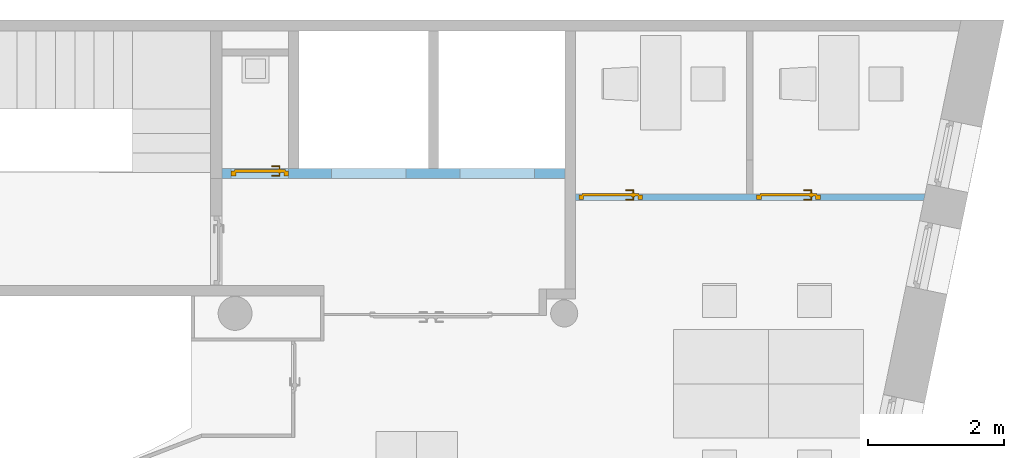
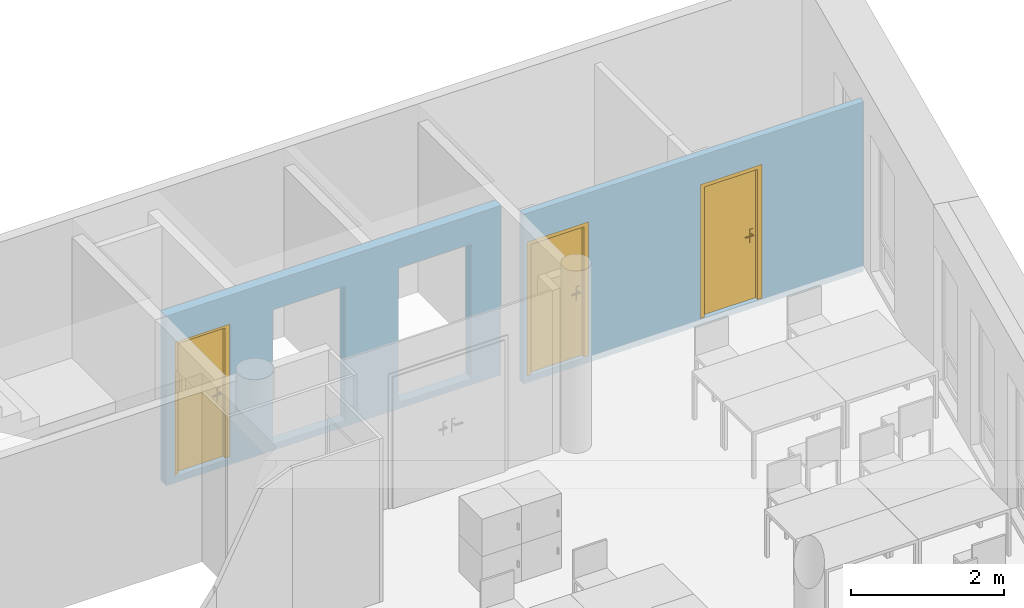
"""IFC4 building model written with IfcOpenShell, lengths in metres."""

import ifcopenshell
import ifcopenshell.guid

model = None  # the IFC model being written
_history = None  # IfcOwnerHistory: only IFC2X3 demands one
_inside = {}  # id of a spatial element -> (the spatial element, [elements in it])
_under = {}  # id of a project, library or spatial element -> (it, [spatial elements below it])
_declared = {}  # id of a project -> (the project, [libraries it declares])
_typed = {}  # id of a type object -> (the type object, [elements of that type])
_made_of = {}  # id of a material, layer set ... -> (it, [elements and type objects made of it])


def new_model(schema):
    """Start an empty IFC model of exactly this schema.

    Asked for "IFC4X3", IfcOpenShell would pick the latest addendum, in which some entities
    have other attributes; the version numbers below select the first issue.
    IFC2X3 requires an IfcOwnerHistory on every rooted entity: one is made here for all.
    """
    global model, _history
    if schema == "IFC4X3":
        model = ifcopenshell.file(schema_version=(4, 3, 0, 0))
    else:
        model = ifcopenshell.file(schema=schema)
    _inside.clear()
    _under.clear()
    _declared.clear()
    _typed.clear()
    _made_of.clear()
    _history = None
    if model.schema == "IFC2X3":
        org = make("IfcOrganization", Name="unknown")
        user = make(
            "IfcPersonAndOrganization",
            ThePerson=make("IfcPerson", FamilyName="unknown"),
            TheOrganization=org,
        )
        app = make(
            "IfcApplication",
            ApplicationDeveloper=org,
            Version="unknown",
            ApplicationFullName="unknown",
            ApplicationIdentifier="unknown",
        )
        _history = make(
            "IfcOwnerHistory",
            OwningUser=user,
            OwningApplication=app,
            ChangeAction="ADDED",
            CreationDate=0,
        )
    return model


def make(cls, **values):
    """One entity of the class cls with the attributes given. An attribute that is None is left unset."""
    return model.create_entity(
        cls, **{name: value for name, value in values.items() if value is not None}
    )


def entity(cls, *values):
    """Any entity or typed value of the class cls, its attributes in the order of the schema. None: left unset."""
    e = model.create_entity(cls)
    for i, value in enumerate(values):
        if value is not None:
            e[i] = value
    return e


def rooted(cls, **values):
    """An entity with a GlobalId (a new one), such as an element, a storey or a relation."""
    return make(cls, GlobalId=ifcopenshell.guid.new(), OwnerHistory=_history, **values)


def si_unit(unit_type, name, prefix=None):
    """IfcSIUnit, for example si_unit("LENGTHUNIT", "METRE", prefix="MILLI")."""
    return make("IfcSIUnit", UnitType=unit_type, Prefix=prefix, Name=name)


def converted_unit(unit_type, name, factor, base, dimensions=None, offset=None):
    """IfcConversionBasedUnit, such as the inch: factor (a typed value) times the base unit."""
    return make(
        "IfcConversionBasedUnit"
        if offset is None
        else "IfcConversionBasedUnitWithOffset",
        ConversionOffset=offset,
        Dimensions=None
        if dimensions is None
        else entity("IfcDimensionalExponents", *dimensions),
        UnitType=unit_type,
        Name=name,
        ConversionFactor=make(
            "IfcMeasureWithUnit", ValueComponent=factor, UnitComponent=base
        ),
    )


def derived_unit(unit_type, elements):
    """IfcDerivedUnit: a product of units, each with its exponent."""
    return make(
        "IfcDerivedUnit",
        Elements=[
            make("IfcDerivedUnitElement", Unit=unit, Exponent=power)
            for unit, power in elements
        ],
        UnitType=unit_type,
    )


def assignment(units):
    """IfcUnitAssignment: the units of a project."""
    return None if units is None else make("IfcUnitAssignment", Units=units)


def point(xyz):
    """IfcCartesianPoint."""
    return None if xyz is None else make("IfcCartesianPoint", Coordinates=xyz)


def direction(xyz):
    """IfcDirection."""
    return None if xyz is None else make("IfcDirection", DirectionRatios=xyz)


def frame(location, z_axis=None, x_axis=None):
    """IfcAxis2Placement3D, a coordinate frame: its origin and axes. An axis left out is left unset."""
    return make(
        "IfcAxis2Placement3D",
        Location=point(location),
        Axis=direction(z_axis),
        RefDirection=direction(x_axis),
    )


def origin():
    """The frame at (0, 0, 0) with its axes left unset."""
    return frame((0.0, 0.0, 0.0))


def origin_with_axes():
    """The frame at (0, 0, 0) with the z axis (0, 0, 1) and the x axis (1, 0, 0) written out."""
    return frame((0.0, 0.0, 0.0), z_axis=(0.0, 0.0, 1.0), x_axis=(1.0, 0.0, 0.0))


def place(relative_to, where):
    """IfcLocalPlacement: puts the frame where relative to a parent placement (None: the world)."""
    return make(
        "IfcLocalPlacement", PlacementRelTo=relative_to, RelativePlacement=where
    )


def context(
    kind, dimensions, precision=None, world=None, true_north=None, identifier=None
):
    """IfcGeometricRepresentationContext, for example the 3D "Model" context."""
    return make(
        "IfcGeometricRepresentationContext",
        ContextIdentifier=identifier,
        ContextType=kind,
        CoordinateSpaceDimension=dimensions,
        Precision=precision,
        WorldCoordinateSystem=world,
        TrueNorth=true_north,
    )


def subcontext(parent, identifier, kind, view, scale=None):
    """IfcGeometricRepresentationSubContext, for example "Body" below "Model"."""
    return make(
        "IfcGeometricRepresentationSubContext",
        ContextIdentifier=identifier,
        ContextType=kind,
        ParentContext=parent,
        TargetScale=scale,
        TargetView=view,
    )


def project(units=None, contexts=None):
    """IfcProject with its units and contexts."""
    return rooted(
        "IfcProject",
        Name="project",
        RepresentationContexts=contexts,
        UnitsInContext=assignment(units),
    )


def spatial(cls, under=None, at=None, **own):
    """A site, building, storey or space (cls), placed at a placement, below another one or the project."""
    s = rooted(cls, ObjectPlacement=at, **own)
    if under is not None:
        _under.setdefault(under.id(), (under, []))[1].append(s)
    return s


def polyline(points):
    """IfcPolyline through the points."""
    return make("IfcPolyline", Points=[point(p) for p in points])


def outline(outer, holes=None, kind="AREA"):
    """IfcArbitraryClosedProfileDef: a profile drawn as a closed curve; with holes, ...WithVoids."""
    if holes is None:
        return make("IfcArbitraryClosedProfileDef", ProfileType=kind, OuterCurve=outer)
    return make(
        "IfcArbitraryProfileDefWithVoids",
        ProfileType=kind,
        OuterCurve=outer,
        InnerCurves=holes,
    )


def extrude(swept, where, along, depth):
    """IfcExtrudedAreaSolid: the profile swept, set in the frame where, extruded along a direction by depth."""
    return make(
        "IfcExtrudedAreaSolid",
        SweptArea=swept,
        Position=where,
        ExtrudedDirection=direction(along),
        Depth=depth,
    )


def faces_of(points, faces, orient=None, outer=None):
    """IfcFace entities. A face is a list of loops; a loop is a list of indices into points, from 0.

    orient and outer hold one flag for each loop. By default every Orientation is true, the
    first loop of a face is its IfcFaceOuterBound and the others are IfcFaceBound.
    """
    made = []
    for i, loops in enumerate(faces):
        bounds = []
        for j, loop in enumerate(loops):
            is_outer = j == 0 if outer is None else outer[i][j]
            bounds.append(
                make(
                    "IfcFaceOuterBound" if is_outer else "IfcFaceBound",
                    Bound=make("IfcPolyLoop", Polygon=[points[k] for k in loop]),
                    Orientation=True if orient is None else orient[i][j],
                )
            )
        made.append(make("IfcFace", Bounds=bounds))
    return made


def faceted_brep(points, faces, orient=None, outer=None, voids=None):
    """IfcFacetedBrep: a solid bounded by flat faces; with voids (closed shells), ...WithVoids."""
    shared = [point(p) for p in points]
    hull = make("IfcClosedShell", CfsFaces=faces_of(shared, faces, orient, outer))
    if voids is None:
        return make("IfcFacetedBrep", Outer=hull)
    return make(
        "IfcFacetedBrepWithVoids",
        Outer=hull,
        Voids=[
            make(cls, CfsFaces=faces_of(shared, fs, o, b)) for cls, fs, o, b in voids
        ],
    )


def shape(context_of_items, identifier, shape_type, items):
    """IfcShapeRepresentation: the items that make up one representation, for example the "Body"."""
    return make(
        "IfcShapeRepresentation",
        ContextOfItems=context_of_items,
        RepresentationIdentifier=identifier,
        RepresentationType=shape_type,
        Items=items,
    )


def source(mapping_origin, context_of_items, identifier, shape_type, items):
    """IfcRepresentationMap: a shape defined once, which mapped items show again and again."""
    return make(
        "IfcRepresentationMap",
        MappingOrigin=mapping_origin,
        MappedRepresentation=shape(context_of_items, identifier, shape_type, items),
    )


def transform(
    local_origin,
    x_axis=None,
    y_axis=None,
    z_axis=None,
    scale=None,
    scale2=None,
    scale3=None,
    uniform=True,
):
    """IfcCartesianTransformationOperator3D, or its non-uniform kind. x_axis, y_axis, z_axis: its Axis1, 2, 3."""
    if uniform:
        return make(
            "IfcCartesianTransformationOperator3D",
            Axis1=direction(x_axis),
            Axis2=direction(y_axis),
            LocalOrigin=point(local_origin),
            Scale=scale,
            Axis3=direction(z_axis),
        )
    return make(
        "IfcCartesianTransformationOperator3DnonUniform",
        Axis1=direction(x_axis),
        Axis2=direction(y_axis),
        LocalOrigin=point(local_origin),
        Scale=scale,
        Axis3=direction(z_axis),
        Scale2=scale2,
        Scale3=scale3,
    )


def mapped(mapping_source, mapping_target):
    """IfcMappedItem: shows the shape of a source again, moved by a transform."""
    return make(
        "IfcMappedItem", MappingSource=mapping_source, MappingTarget=mapping_target
    )


def material(Name=None, Category=None):
    """IfcMaterial."""
    return make("IfcMaterial", Name=Name, Category=Category)


def layer(
    of_material, thickness, ventilated=None, Name=None, Category=None, Priority=None
):
    """IfcMaterialLayer: one layer of a wall or slab, of a material (None: an air gap)."""
    return make(
        "IfcMaterialLayer",
        Material=of_material,
        LayerThickness=thickness,
        IsVentilated=ventilated,
        Name=Name,
        Category=Category,
        Priority=Priority,
    )


def layer_set(layers, Name=None):
    """IfcMaterialLayerSet."""
    return make("IfcMaterialLayerSet", MaterialLayers=layers, LayerSetName=Name)


def layer_usage(for_layer_set, set_direction, sense, offset, extent=None):
    """IfcMaterialLayerSetUsage: how a layer set lies in its element."""
    return make(
        "IfcMaterialLayerSetUsage",
        ForLayerSet=for_layer_set,
        LayerSetDirection=set_direction,
        DirectionSense=sense,
        OffsetFromReferenceLine=offset,
        ReferenceExtent=extent,
    )


def made_of(thing, what):
    """Note that an element or type object is made of a material, layer set ...; save() writes the relation."""
    if what is not None:
        _made_of.setdefault(what.id(), (what, []))[1].append(thing)
    return thing


def element(
    cls,
    number,
    at=None,
    inside=None,
    cuts=None,
    type_object=None,
    material=None,
    context=None,
    identifier="Body",
    shape_type=None,
    held_by="IfcProductDefinitionShape",
    body=None,
    shapes=None,
    **own,
):
    """One element of the class cls, such as IfcWall. Its Tag is "e" and its number.

    at: its placement. inside: the storey or other place that contains it. cuts: it is an
    opening in that element (IfcRelVoidsElement). A single representation is given by context,
    identifier, shape_type and body (its items); several are given by shapes. held_by: the class
    of the entity that holds the representations. save() writes the other relations.
    """
    e = rooted(cls, Tag="e%d" % number, ObjectPlacement=at, **own)
    if body is not None:
        shapes = [shape(context, identifier, shape_type, body)]
    if shapes is not None:
        e.Representation = make(held_by, Representations=shapes)
    if inside is not None:
        _inside.setdefault(inside.id(), (inside, []))[1].append(e)
    if cuts is not None:
        rooted(
            "IfcRelVoidsElement", RelatingBuildingElement=cuts, RelatedOpeningElement=e
        )
    if type_object is not None:
        _typed.setdefault(type_object.id(), (type_object, []))[1].append(e)
    return made_of(e, material)


def fill(opening, filler):
    """IfcRelFillsElement: the door or window that sits in an opening."""
    return rooted(
        "IfcRelFillsElement",
        RelatingOpeningElement=opening,
        RelatedBuildingElement=filler,
    )


def aggregate(whole, parts):
    """IfcRelAggregates: a whole, such as a stair, and the parts it consists of."""
    return rooted("IfcRelAggregates", RelatingObject=whole, RelatedObjects=parts)


def save(model, path):
    """Write the relations noted so far, then the file.

    IfcRelAggregates (storeys below a building ...), IfcRelContainedInSpatialStructure (elements
    in a storey), IfcRelDefinesByType, IfcRelAssociatesMaterial and IfcRelDeclares: one each for
    every whole, place, type object, material and project.
    """
    for whole, parts in _under.values():
        aggregate(whole, parts)
    for where, things in _inside.values():
        rooted(
            "IfcRelContainedInSpatialStructure",
            RelatedElements=things,
            RelatingStructure=where,
        )
    for kind, things in _typed.values():
        rooted("IfcRelDefinesByType", RelatedObjects=things, RelatingType=kind)
    for what, things in _made_of.values():
        rooted("IfcRelAssociatesMaterial", RelatedObjects=things, RelatingMaterial=what)
    for by, libraries in _declared.values():
        rooted("IfcRelDeclares", RelatingContext=by, RelatedDefinitions=libraries)
    model.write(path)


model = new_model("IFC4")

# Units and contexts
model_context = context("Model", 3, precision=1e-05, world=origin())
body_context = subcontext(model_context, "Body", "Model", "MODEL_VIEW")
ifc_project = project(units=[si_unit("LENGTHUNIT", "METRE"), si_unit("AREAUNIT", "SQUARE_METRE"), si_unit("VOLUMEUNIT", "CUBIC_METRE"), si_unit("MASSUNIT", "GRAM", prefix="KILO"), converted_unit("PLANEANGLEUNIT", "DEGREE", entity("IfcPlaneAngleMeasure", 0.0174532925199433), si_unit("PLANEANGLEUNIT", "RADIAN"), dimensions=[0, 0, 0, 0, 0, 0, 0]), derived_unit("THERMALTRANSMITTANCEUNIT", [(si_unit("POWERUNIT", "WATT"), 1), (si_unit("THERMODYNAMICTEMPERATUREUNIT", "KELVIN"), -1), (si_unit("LENGTHUNIT", "METRE"), -2)]), derived_unit("VOLUMETRICFLOWRATEUNIT", [(si_unit("LENGTHUNIT", "METRE"), 3), (converted_unit("TIMEUNIT", "hour", entity("IfcTimeMeasure", 3600.0), si_unit("TIMEUNIT", "SECOND"), dimensions=[0, 0, 1, 0, 0, 0, 0]), -1), (si_unit("LENGTHUNIT", "METRE"), -1)])], contexts=[model_context])

# Building, storeys
building_placement = place(None, origin())
building = spatial("IfcBuilding", under=ifc_project, at=building_placement, Name="HABITATGE PLURIFAMILIAR", CompositionType="ELEMENT")
storey_1_placement = place(building_placement, frame((0.0, 0.0, 18.29)))
storey_1 = spatial("IfcBuildingStorey", under=building, at=storey_1_placement, Name="PLANTA CINQUENA", CompositionType="ELEMENT", Elevation=18.29)
storey_2_placement = place(storey_1_placement, frame((0.0, 0.0, 15.28)))
storey_2 = spatial("IfcBuildingStorey", under=storey_1, at=storey_2_placement, Name="NOU", CompositionType="PARTIAL")

# Wall, openings, door
ifc_material_1 = material()
ifc_layer_1 = layer(ifc_material_1, 0.15)
ifc_layer_set_1 = layer_set([ifc_layer_1])
ifc_layer_usage_1 = layer_usage(ifc_layer_set_1, "AXIS2", "POSITIVE", 0.0)
wall_1_placement = place(storey_2_placement, frame((415.946984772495, 25.8894598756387, -15.38)))
wall_1 = element("IfcWall", 1, at=wall_1_placement, inside=storey_2, material=ifc_layer_usage_1, Name="Evans P5", context=body_context, shape_type="SweptSolid", body=[
    extrude(outline(polyline([(0.0, 0.0), (5.05999999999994, 0.0), (5.05999999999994, 0.15), (1.13000001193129, 0.15), (0.980000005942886, 0.150010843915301), (0.13, 0.150010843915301), (0.0, 0.150000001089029), (0.0, 0.0)])), origin_with_axes(), (0.0, 0.0, 1.0), 2.71),
])
opening_1_placement = place(wall_1_placement, frame((3.51000000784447, 0.0, 0.1), z_axis=(0.0, 1.0, 0.0), x_axis=(0.0, 0.0, 1.0)))
element("IfcOpeningElement", 2, at=opening_1_placement, cuts=wall_1, Name="Vano porta P5", ObjectType="Opening", context=body_context, shape_type="SweptSolid", body=[
    extrude(outline(polyline([(2.15, 1.09999999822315), (2.15, 0.0), (0.0, 0.0), (0.0, 1.09999999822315), (2.15, 1.09999999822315)])), origin_with_axes(), (0.0, 0.0, 1.0), 0.15),
])
opening_2_placement = place(wall_1_placement, frame((1.61000001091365, 0.0, 0.1), z_axis=(0.0, 1.0, 0.0), x_axis=(0.0, 0.0, 1.0)))
element("IfcOpeningElement", 3, at=opening_2_placement, cuts=wall_1, Name="Vano porta P5", ObjectType="Opening", context=body_context, shape_type="SweptSolid", body=[
    extrude(outline(polyline([(2.15, 1.09999999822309), (2.15, 0.0), (0.0, 0.0), (0.0, 1.09999999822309), (2.15, 1.09999999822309)])), origin_with_axes(), (0.0, 0.0, 1.0), 0.15),
])
opening_3_placement = place(wall_1_placement, frame((0.13, 0.0, 0.1), z_axis=(0.0, 1.0, 0.0), x_axis=(0.0, 0.0, 1.0)))
opening_3 = element("IfcOpeningElement", 4, at=opening_3_placement, cuts=wall_1, Name="Vano porta P5", ObjectType="Opening", context=body_context, shape_type="SweptSolid", body=[
    extrude(outline(polyline([(2.15, 0.85), (2.15, 0.0), (0.0, 0.0), (0.0, 0.85), (2.15, 0.85)])), origin_with_axes(), (0.0, 0.0, 1.0), 0.150010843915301),
])
shared_shape_1 = source(origin_with_axes(), body_context, "Body", "Brep", [
    faceted_brep([(0.85, 0.0699945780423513, 2.15), (0.78, 0.0699945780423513, 2.15), (0.78, 0.0699945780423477, 0.0), (0.85, 0.0699945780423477, 0.0), (0.85, -5.42195764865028e-06, 0.0), (0.78, -5.42195764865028e-06, 0.0), (0.78, -5.42195764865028e-06, 2.15), (0.85, -5.42195764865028e-06, 2.15)], [[[0, 1, 2, 3]], [[4, 5, 6, 7]], [[3, 4, 7, 0]], [[2, 5, 4, 3]], [[1, 6, 5, 2]], [[0, 7, 6, 1]]], orient=[[False], [False], [False], [False], [False], [False]]),
    faceted_brep([(0.07, 0.0699945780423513, 2.15), (0.0, 0.0699945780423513, 2.15), (0.0, 0.0699945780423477, 0.0), (0.07, 0.0699945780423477, 0.0), (0.07, -5.42195764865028e-06, 0.0), (0.0, -5.42195764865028e-06, 0.0), (0.0, -5.42195764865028e-06, 2.15), (0.07, -5.42195764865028e-06, 2.15)], [[[0, 1, 2, 3]], [[4, 5, 6, 7]], [[3, 4, 7, 0]], [[2, 5, 4, 3]], [[1, 6, 5, 2]], [[0, 7, 6, 1]]], orient=[[False], [False], [False], [False], [False], [False]]),
    faceted_brep([(0.78, 0.0699945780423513, 2.15), (0.07, 0.0699945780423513, 2.15), (0.07, 0.0699945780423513, 2.08), (0.78, 0.0699945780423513, 2.08), (0.78, -5.42195764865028e-06, 2.08), (0.07, -5.42195764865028e-06, 2.08), (0.07, -5.42195764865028e-06, 2.15), (0.78, -5.42195764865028e-06, 2.15)], [[[0, 1, 2, 3]], [[4, 5, 6, 7]], [[3, 4, 7, 0]], [[2, 5, 4, 3]], [[1, 6, 5, 2]], [[0, 7, 6, 1]]], orient=[[False], [False], [False], [False], [False], [False]]),
    faceted_brep([(0.8, 0.0899945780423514, 2.1), (0.05, 0.0899945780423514, 2.1), (0.05, 0.0899945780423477, 0.0), (0.8, 0.0899945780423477, 0.0), (0.8, 0.0499945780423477, 0.0), (0.05, 0.0499945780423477, 0.0), (0.05, 0.0499945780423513, 2.1), (0.8, 0.0499945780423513, 2.1)], [[[0, 1, 2, 3]], [[4, 5, 6, 7]], [[3, 4, 7, 0]], [[2, 5, 4, 3]], [[1, 6, 5, 2]], [[0, 7, 6, 1]]], orient=[[False], [False], [False], [False], [False], [False]]),
    faceted_brep([(0.74, 0.0499945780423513, 1.125), (0.69, 0.0499945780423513, 1.125), (0.69, 0.0499945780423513, 0.91), (0.74, 0.0499945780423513, 0.91), (0.74, 0.0399945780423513, 0.91), (0.69, 0.0399945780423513, 0.91), (0.69, 0.0399945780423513, 1.125), (0.74, 0.0399945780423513, 1.125)], [[[0, 1, 2, 3]], [[4, 5, 6, 7]], [[3, 4, 7, 0]], [[2, 5, 4, 3]], [[1, 6, 5, 2]], [[0, 7, 6, 1]]], orient=[[False], [False], [False], [False], [False], [False]]),
    faceted_brep([(0.715, 0.0399945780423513, 1.06), (0.71, 0.0399945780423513, 1.05866025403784), (0.706339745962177, 0.0399945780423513, 1.055), (0.705, 0.0399945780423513, 1.05), (0.706339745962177, 0.0399945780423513, 1.045), (0.71, 0.0399945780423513, 1.04133974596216), (0.715, 0.0399945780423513, 1.04), (0.72, 0.0399945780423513, 1.04133974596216), (0.723660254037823, 0.0399945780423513, 1.045), (0.725, 0.0399945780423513, 1.05), (0.723660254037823, 0.0399945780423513, 1.055), (0.72, 0.0399945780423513, 1.05866025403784), (0.72, -0.00500542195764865, 1.05866025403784), (0.715, -5.42195764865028e-06, 1.06), (0.723660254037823, -0.00866567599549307, 1.055), (0.725, -0.0100054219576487, 1.05), (0.723660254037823, -0.00866567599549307, 1.045), (0.72, -0.00500542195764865, 1.04133974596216), (0.715, -5.42195764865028e-06, 1.04), (0.71, 0.00499457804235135, 1.04133974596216), (0.706339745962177, 0.00865483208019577, 1.045), (0.705, 0.00999457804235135, 1.05), (0.706339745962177, 0.00865483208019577, 1.055), (0.71, 0.00499457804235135, 1.05866025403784), (0.6, -5.42195764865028e-06, 1.06), (0.6, -0.00500542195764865, 1.05866025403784), (0.6, -0.00866567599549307, 1.055), (0.6, -0.0100054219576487, 1.05), (0.6, -0.00866567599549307, 1.045), (0.6, -0.00500542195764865, 1.04133974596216), (0.6, -5.42195764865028e-06, 1.04), (0.6, 0.00499457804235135, 1.04133974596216), (0.6, 0.00865483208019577, 1.045), (0.6, 0.00999457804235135, 1.05), (0.6, 0.00865483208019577, 1.055), (0.6, 0.00499457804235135, 1.05866025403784)], [[[0, 1, 2, 3, 4, 5, 6, 7, 8, 9, 10, 11]], [[0, 11, 12, 13]], [[11, 10, 14, 12]], [[10, 9, 15, 14]], [[9, 8, 16, 15]], [[8, 7, 17, 16]], [[7, 6, 18, 17]], [[6, 5, 19, 18]], [[5, 4, 20, 19]], [[4, 3, 21, 20]], [[3, 2, 22, 21]], [[2, 1, 23, 22]], [[1, 0, 13, 23]], [[24, 25, 26, 27, 28, 29, 30, 31, 32, 33, 34, 35]], [[13, 12, 25, 24]], [[12, 14, 26, 25]], [[14, 15, 27, 26]], [[15, 16, 28, 27]], [[16, 17, 29, 28]], [[17, 18, 30, 29]], [[18, 19, 31, 30]], [[19, 20, 32, 31]], [[20, 21, 33, 32]], [[21, 22, 34, 33]], [[22, 23, 35, 34]], [[23, 13, 24, 35]]], orient=[[False], [False], [False], [False], [False], [False], [False], [False], [False], [False], [False], [False], [False], [False], [False], [False], [False], [False], [False], [False], [False], [False], [False], [False], [False], [False]]),
    faceted_brep([(0.74, 0.0899945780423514, 1.125), (0.74, 0.0899945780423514, 0.91), (0.69, 0.0899945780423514, 0.91), (0.69, 0.0899945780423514, 1.125), (0.74, 0.0999945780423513, 0.91), (0.74, 0.0999945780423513, 1.125), (0.69, 0.0999945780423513, 1.125), (0.69, 0.0999945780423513, 0.91)], [[[0, 1, 2, 3]], [[4, 5, 6, 7]], [[1, 0, 5, 4]], [[2, 1, 4, 7]], [[3, 2, 7, 6]], [[0, 3, 6, 5]]], orient=[[False], [False], [False], [False], [False], [False]]),
    faceted_brep([(0.715, 0.0999945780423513, 1.06), (0.72, 0.0999945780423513, 1.05866025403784), (0.723660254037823, 0.0999945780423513, 1.055), (0.725, 0.0999945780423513, 1.05), (0.723660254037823, 0.0999945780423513, 1.045), (0.72, 0.0999945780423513, 1.04133974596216), (0.715, 0.0999945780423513, 1.04), (0.71, 0.0999945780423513, 1.04133974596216), (0.706339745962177, 0.0999945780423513, 1.045), (0.705, 0.0999945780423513, 1.05), (0.706339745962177, 0.0999945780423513, 1.055), (0.71, 0.0999945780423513, 1.05866025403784), (0.715, 0.139994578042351, 1.06), (0.72, 0.144994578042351, 1.05866025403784), (0.723660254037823, 0.148654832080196, 1.055), (0.725, 0.149994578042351, 1.05), (0.723660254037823, 0.148654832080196, 1.045), (0.72, 0.144994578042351, 1.04133974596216), (0.715, 0.139994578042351, 1.04), (0.71, 0.134994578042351, 1.04133974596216), (0.706339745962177, 0.131334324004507, 1.045), (0.705, 0.129994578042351, 1.05), (0.706339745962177, 0.131334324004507, 1.055), (0.71, 0.134994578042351, 1.05866025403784), (0.6, 0.139994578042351, 1.06), (0.6, 0.134994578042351, 1.05866025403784), (0.6, 0.131334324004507, 1.055), (0.6, 0.129994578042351, 1.05), (0.6, 0.131334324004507, 1.045), (0.6, 0.134994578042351, 1.04133974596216), (0.6, 0.139994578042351, 1.04), (0.6, 0.144994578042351, 1.04133974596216), (0.6, 0.148654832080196, 1.045), (0.6, 0.149994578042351, 1.05), (0.6, 0.148654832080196, 1.055), (0.6, 0.144994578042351, 1.05866025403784)], [[[0, 1, 2, 3, 4, 5, 6, 7, 8, 9, 10, 11]], [[0, 12, 13, 1]], [[1, 13, 14, 2]], [[2, 14, 15, 3]], [[3, 15, 16, 4]], [[4, 16, 17, 5]], [[5, 17, 18, 6]], [[6, 18, 19, 7]], [[7, 19, 20, 8]], [[8, 20, 21, 9]], [[9, 21, 22, 10]], [[10, 22, 23, 11]], [[11, 23, 12, 0]], [[24, 25, 26, 27, 28, 29, 30, 31, 32, 33, 34, 35]], [[12, 24, 35, 13]], [[13, 35, 34, 14]], [[14, 34, 33, 15]], [[15, 33, 32, 16]], [[16, 32, 31, 17]], [[17, 31, 30, 18]], [[18, 30, 29, 19]], [[19, 29, 28, 20]], [[20, 28, 27, 21]], [[21, 27, 26, 22]], [[22, 26, 25, 23]], [[23, 25, 24, 12]]], orient=[[False], [False], [False], [False], [False], [False], [False], [False], [False], [False], [False], [False], [False], [False], [False], [False], [False], [False], [False], [False], [False], [False], [False], [False], [False], [False]]),
])
door_1_placement = place(opening_3_placement, frame((0.0, 0.0, 0.0400108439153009), z_axis=(1.0, 0.0, 0.0), x_axis=(0.0, 1.0, 0.0)))
door_1 = element("IfcDoor", 5, at=door_1_placement, inside=storey_2, Name="Porta P5", OperationType="USERDEFINED", OverallHeight=2.15, OverallWidth=0.85, PredefinedType="DOOR", context=body_context, shape_type="MappedRepresentation", body=[
    mapped(shared_shape_1, transform((0.0, 0.0, 0.0), x_axis=(1.0, 0.0, 0.0), y_axis=(0.0, 1.0, 0.0), z_axis=(0.0, 0.0, 1.0), scale=1.0)),
])
fill(opening_3, door_1)

# Wall, openings, doors
ifc_material_2 = material()
ifc_layer_2 = layer(ifc_material_2, 0.1)
ifc_layer_set_2 = layer_set([ifc_layer_2])
ifc_layer_usage_2 = layer_usage(ifc_layer_set_2, "AXIS2", "POSITIVE", 0.0)
wall_2_placement = place(storey_2_placement, frame((426.315182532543, 25.6641269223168, -15.38), z_axis=(0.0, 0.0, 1.0), x_axis=(-1.0, -1.55161817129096e-14, 0.0)))
wall_2 = element("IfcWall", 6, at=wall_2_placement, inside=storey_2, material=ifc_layer_usage_2, Name="Mampara P5", context=body_context, shape_type="SweptSolid", body=[
    extrude(outline(polyline([(-5.15819776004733, -0.1), (0.0, -0.1), (0.0, 0.0), (-5.13747984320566, 0.0), (-5.15819776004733, -0.1)])), frame((5.15819776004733, 0.1, 0.0), z_axis=(0.0, 0.0, 1.0), x_axis=(1.0, 0.0, 0.0)), (0.0, 0.0, 1.0), 2.71),
])
opening_4_placement = place(wall_2_placement, frame((4.16819776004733, 0.0, 0.1), z_axis=(1.81898940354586e-14, 1.0, 0.0), x_axis=(0.0, 0.0, 1.0)))
opening_4 = element("IfcOpeningElement", 7, at=opening_4_placement, cuts=wall_2, Name="Vano porta P5", ObjectType="Opening", context=body_context, shape_type="SweptSolid", body=[
    extrude(outline(polyline([(2.15, 0.94), (2.15, 0.0), (0.0, 0.0), (0.0, 0.94), (2.15, 0.94)])), origin_with_axes(), (0.0, 0.0, 1.0), 0.1),
])
opening_5_placement = place(wall_2_placement, frame((1.54550683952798, 0.0, 0.1), z_axis=(1.59161572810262e-14, 1.0, 0.0), x_axis=(0.0, 0.0, 1.0)))
opening_5 = element("IfcOpeningElement", 8, at=opening_5_placement, cuts=wall_2, Name="Vano porta P5", ObjectType="Opening", context=body_context, shape_type="SweptSolid", body=[
    extrude(outline(polyline([(2.15, 0.94), (2.15, 0.0), (0.0, 0.0), (0.0, 0.94), (2.15, 0.94)])), origin_with_axes(), (0.0, 0.0, 1.0), 0.1),
])
shared_shape_2 = source(origin_with_axes(), body_context, "Body", "Brep", [
    faceted_brep([(0.94, 0.0699999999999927, 2.15), (0.87, 0.0699999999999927, 2.15), (0.87, 0.0699999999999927, 0.0), (0.94, 0.0699999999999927, 0.0), (0.94, 0.0, 0.0), (0.87, 0.0, 0.0), (0.87, 0.0, 2.15), (0.94, 0.0, 2.15)], [[[0, 1, 2, 3]], [[4, 5, 6, 7]], [[3, 4, 7, 0]], [[2, 5, 4, 3]], [[1, 6, 5, 2]], [[0, 7, 6, 1]]], orient=[[False], [False], [False], [False], [False], [False]]),
    faceted_brep([(0.07, 0.0700000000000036, 2.15), (0.0, 0.0700000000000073, 2.15), (0.0, 0.0700000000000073, 0.0), (0.07, 0.0700000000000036, 0.0), (0.07, 0.0, 0.0), (0.0, 0.0, 0.0), (0.0, 0.0, 2.15), (0.07, 0.0, 2.15)], [[[0, 1, 2, 3]], [[4, 5, 6, 7]], [[3, 4, 7, 0]], [[2, 5, 4, 3]], [[1, 6, 5, 2]], [[0, 7, 6, 1]]], orient=[[False], [False], [False], [False], [False], [False]]),
    faceted_brep([(0.87, 0.0699999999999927, 2.15), (0.07, 0.0700000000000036, 2.15), (0.07, 0.0700000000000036, 2.08), (0.87, 0.0699999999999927, 2.08), (0.87, 0.0, 2.08), (0.07, 0.0, 2.08), (0.07, 0.0, 2.15), (0.87, 0.0, 2.15)], [[[0, 1, 2, 3]], [[4, 5, 6, 7]], [[3, 4, 7, 0]], [[2, 5, 4, 3]], [[1, 6, 5, 2]], [[0, 7, 6, 1]]], orient=[[False], [False], [False], [False], [False], [False]]),
    faceted_brep([(0.89, 0.0899999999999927, 2.1), (0.05, 0.0900000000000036, 2.1), (0.05, 0.0900000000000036, 0.0), (0.89, 0.0899999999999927, 0.0), (0.89, 0.0499999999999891, 0.0), (0.05, 0.05, 0.0), (0.05, 0.0500000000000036, 2.1), (0.89, 0.0499999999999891, 2.1)], [[[0, 1, 2, 3]], [[4, 5, 6, 7]], [[3, 4, 7, 0]], [[2, 5, 4, 3]], [[1, 6, 5, 2]], [[0, 7, 6, 1]]], orient=[[False], [False], [False], [False], [False], [False]]),
    faceted_brep([(0.83, 0.0499999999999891, 1.125), (0.78, 0.0499999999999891, 1.125), (0.78, 0.0499999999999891, 0.91), (0.83, 0.0499999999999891, 0.91), (0.83, 0.0399999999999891, 0.91), (0.78, 0.0399999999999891, 0.91), (0.78, 0.0399999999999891, 1.125), (0.83, 0.0399999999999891, 1.125)], [[[0, 1, 2, 3]], [[4, 5, 6, 7]], [[3, 4, 7, 0]], [[2, 5, 4, 3]], [[1, 6, 5, 2]], [[0, 7, 6, 1]]], orient=[[False], [False], [False], [False], [False], [False]]),
    faceted_brep([(0.805, 0.0399999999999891, 1.06), (0.8, 0.0399999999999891, 1.05866025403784), (0.796339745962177, 0.0399999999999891, 1.055), (0.795, 0.0399999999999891, 1.05), (0.796339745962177, 0.0399999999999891, 1.045), (0.8, 0.0399999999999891, 1.04133974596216), (0.805, 0.0399999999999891, 1.04), (0.81, 0.0399999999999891, 1.04133974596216), (0.813660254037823, 0.0399999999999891, 1.045), (0.815, 0.0399999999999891, 1.05), (0.813660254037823, 0.0399999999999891, 1.055), (0.81, 0.0399999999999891, 1.05866025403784), (0.81, -0.00500000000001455, 1.05866025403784), (0.805, 0.0, 1.06), (0.813660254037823, -0.00866025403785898, 1.055), (0.815, -0.0100000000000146, 1.05), (0.813660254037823, -0.00866025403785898, 1.045), (0.81, -0.00500000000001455, 1.04133974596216), (0.805, 0.0, 1.04), (0.8, 0.00499999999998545, 1.04133974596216), (0.796339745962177, 0.00866025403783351, 1.045), (0.795, 0.00999999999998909, 1.05), (0.796339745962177, 0.00866025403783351, 1.055), (0.8, 0.00499999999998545, 1.05866025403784), (0.69, 0.0, 1.06), (0.69, -0.00500000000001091, 1.05866025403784), (0.69, -0.00866025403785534, 1.055), (0.69, -0.0100000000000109, 1.05), (0.69, -0.00866025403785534, 1.045), (0.69, -0.00500000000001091, 1.04133974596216), (0.69, 0.0, 1.04), (0.69, 0.00499999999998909, 1.04133974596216), (0.69, 0.00866025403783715, 1.045), (0.69, 0.00999999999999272, 1.05), (0.69, 0.00866025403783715, 1.055), (0.69, 0.00499999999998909, 1.05866025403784)], [[[0, 1, 2, 3, 4, 5, 6, 7, 8, 9, 10, 11]], [[0, 11, 12, 13]], [[11, 10, 14, 12]], [[10, 9, 15, 14]], [[9, 8, 16, 15]], [[8, 7, 17, 16]], [[7, 6, 18, 17]], [[6, 5, 19, 18]], [[5, 4, 20, 19]], [[4, 3, 21, 20]], [[3, 2, 22, 21]], [[2, 1, 23, 22]], [[1, 0, 13, 23]], [[24, 25, 26, 27, 28, 29, 30, 31, 32, 33, 34, 35]], [[13, 12, 25, 24]], [[12, 14, 26, 25]], [[14, 15, 27, 26]], [[15, 16, 28, 27]], [[16, 17, 29, 28]], [[17, 18, 30, 29]], [[18, 19, 31, 30]], [[19, 20, 32, 31]], [[20, 21, 33, 32]], [[21, 22, 34, 33]], [[22, 23, 35, 34]], [[23, 13, 24, 35]]], orient=[[False], [False], [False], [False], [False], [False], [False], [False], [False], [False], [False], [False], [False], [False], [False], [False], [False], [False], [False], [False], [False], [False], [False], [False], [False], [False]]),
    faceted_brep([(0.83, 0.0899999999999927, 1.125), (0.83, 0.0899999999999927, 0.91), (0.78, 0.0899999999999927, 0.91), (0.78, 0.0899999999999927, 1.125), (0.83, 0.0999999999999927, 0.91), (0.83, 0.0999999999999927, 1.125), (0.78, 0.0999999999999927, 1.125), (0.78, 0.0999999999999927, 0.91)], [[[0, 1, 2, 3]], [[4, 5, 6, 7]], [[1, 0, 5, 4]], [[2, 1, 4, 7]], [[3, 2, 7, 6]], [[0, 3, 6, 5]]], orient=[[False], [False], [False], [False], [False], [False]]),
    faceted_brep([(0.805, 0.0999999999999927, 1.06), (0.81, 0.0999999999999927, 1.05866025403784), (0.813660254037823, 0.0999999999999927, 1.055), (0.815, 0.0999999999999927, 1.05), (0.813660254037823, 0.0999999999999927, 1.045), (0.81, 0.0999999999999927, 1.04133974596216), (0.805, 0.0999999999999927, 1.04), (0.8, 0.0999999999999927, 1.04133974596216), (0.796339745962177, 0.0999999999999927, 1.045), (0.795, 0.0999999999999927, 1.05), (0.796339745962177, 0.0999999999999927, 1.055), (0.8, 0.0999999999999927, 1.05866025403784), (0.805, 0.139999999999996, 1.06), (0.81, 0.144999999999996, 1.05866025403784), (0.813660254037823, 0.148660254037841, 1.055), (0.815, 0.15, 1.05), (0.813660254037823, 0.148660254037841, 1.045), (0.81, 0.144999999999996, 1.04133974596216), (0.805, 0.139999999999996, 1.04), (0.8, 0.134999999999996, 1.04133974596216), (0.796339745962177, 0.131339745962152, 1.045), (0.795, 0.129999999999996, 1.05), (0.796339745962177, 0.131339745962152, 1.055), (0.8, 0.134999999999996, 1.05866025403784), (0.69, 0.14, 1.06), (0.69, 0.135, 1.05866025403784), (0.69, 0.131339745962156, 1.055), (0.69, 0.13, 1.05), (0.69, 0.131339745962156, 1.045), (0.69, 0.135, 1.04133974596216), (0.69, 0.14, 1.04), (0.69, 0.145, 1.04133974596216), (0.69, 0.148660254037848, 1.045), (0.69, 0.150000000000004, 1.05), (0.69, 0.148660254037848, 1.055), (0.69, 0.145, 1.05866025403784)], [[[0, 1, 2, 3, 4, 5, 6, 7, 8, 9, 10, 11]], [[0, 12, 13, 1]], [[1, 13, 14, 2]], [[2, 14, 15, 3]], [[3, 15, 16, 4]], [[4, 16, 17, 5]], [[5, 17, 18, 6]], [[6, 18, 19, 7]], [[7, 19, 20, 8]], [[8, 20, 21, 9]], [[9, 21, 22, 10]], [[10, 22, 23, 11]], [[11, 23, 12, 0]], [[24, 25, 26, 27, 28, 29, 30, 31, 32, 33, 34, 35]], [[12, 24, 35, 13]], [[13, 35, 34, 14]], [[14, 34, 33, 15]], [[15, 33, 32, 16]], [[16, 32, 31, 17]], [[17, 31, 30, 18]], [[18, 30, 29, 19]], [[19, 29, 28, 20]], [[20, 28, 27, 21]], [[21, 27, 26, 22]], [[22, 26, 25, 23]], [[23, 25, 24, 12]]], orient=[[False], [False], [False], [False], [False], [False], [False], [False], [False], [False], [False], [False], [False], [False], [False], [False], [False], [False], [False], [False], [False], [False], [False], [False], [False], [False]]),
])
door_2_placement = place(opening_4_placement, frame((0.0, 0.94, 0.0850000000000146), z_axis=(1.0, 0.0, 0.0), x_axis=(0.0, -1.0, -1.81544732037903e-14)))
door_2 = element("IfcDoor", 9, at=door_2_placement, inside=storey_2, Name="Porta P5", OperationType="USERDEFINED", OverallHeight=2.15, OverallWidth=0.94, PredefinedType="DOOR", context=body_context, shape_type="MappedRepresentation", body=[
    mapped(shared_shape_2, transform((0.0, 0.0, 0.0), x_axis=(1.0, 0.0, 0.0), y_axis=(0.0, 1.0, 0.0), z_axis=(0.0, 0.0, 1.0), scale=1.0)),
])
fill(opening_4, door_2)
shared_shape_3 = source(origin_with_axes(), body_context, "Body", "Brep", [
    faceted_brep([(0.94, 0.0699999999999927, 2.15), (0.87, 0.0699999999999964, 2.15), (0.87, 0.0699999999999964, 0.0), (0.94, 0.0699999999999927, 0.0), (0.94, 0.0, 0.0), (0.87, 0.0, 0.0), (0.87, 0.0, 2.15), (0.94, 0.0, 2.15)], [[[0, 1, 2, 3]], [[4, 5, 6, 7]], [[3, 4, 7, 0]], [[2, 5, 4, 3]], [[1, 6, 5, 2]], [[0, 7, 6, 1]]], orient=[[False], [False], [False], [False], [False], [False]]),
    faceted_brep([(0.07, 0.0700000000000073, 2.15), (0.0, 0.0700000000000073, 2.15), (0.0, 0.0700000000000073, 0.0), (0.07, 0.0700000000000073, 0.0), (0.07, 0.0, 0.0), (0.0, 0.0, 0.0), (0.0, 0.0, 2.15), (0.07, 0.0, 2.15)], [[[0, 1, 2, 3]], [[4, 5, 6, 7]], [[3, 4, 7, 0]], [[2, 5, 4, 3]], [[1, 6, 5, 2]], [[0, 7, 6, 1]]], orient=[[False], [False], [False], [False], [False], [False]]),
    faceted_brep([(0.87, 0.0699999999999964, 2.15), (0.07, 0.0700000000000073, 2.15), (0.07, 0.0700000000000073, 2.08), (0.87, 0.0699999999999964, 2.08), (0.87, 0.0, 2.08), (0.07, 0.0, 2.08), (0.07, 0.0, 2.15), (0.87, 0.0, 2.15)], [[[0, 1, 2, 3]], [[4, 5, 6, 7]], [[3, 4, 7, 0]], [[2, 5, 4, 3]], [[1, 6, 5, 2]], [[0, 7, 6, 1]]], orient=[[False], [False], [False], [False], [False], [False]]),
    faceted_brep([(0.89, 0.0899999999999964, 2.1), (0.05, 0.0900000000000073, 2.1), (0.05, 0.0900000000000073, 0.0), (0.89, 0.0899999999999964, 0.0), (0.89, 0.0499999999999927, 0.0), (0.05, 0.0500000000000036, 0.0), (0.05, 0.0500000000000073, 2.1), (0.89, 0.0499999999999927, 2.1)], [[[0, 1, 2, 3]], [[4, 5, 6, 7]], [[3, 4, 7, 0]], [[2, 5, 4, 3]], [[1, 6, 5, 2]], [[0, 7, 6, 1]]], orient=[[False], [False], [False], [False], [False], [False]]),
    faceted_brep([(0.83, 0.0499999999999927, 1.125), (0.78, 0.0499999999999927, 1.125), (0.78, 0.0499999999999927, 0.91), (0.83, 0.0499999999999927, 0.91), (0.83, 0.0399999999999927, 0.91), (0.78, 0.0399999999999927, 0.91), (0.78, 0.0399999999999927, 1.125), (0.83, 0.0399999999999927, 1.125)], [[[0, 1, 2, 3]], [[4, 5, 6, 7]], [[3, 4, 7, 0]], [[2, 5, 4, 3]], [[1, 6, 5, 2]], [[0, 7, 6, 1]]], orient=[[False], [False], [False], [False], [False], [False]]),
    faceted_brep([(0.805, 0.0399999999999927, 1.06), (0.8, 0.0399999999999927, 1.05866025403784), (0.796339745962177, 0.0399999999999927, 1.055), (0.795, 0.0399999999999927, 1.05), (0.796339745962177, 0.0399999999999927, 1.045), (0.8, 0.0399999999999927, 1.04133974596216), (0.805, 0.0399999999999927, 1.04), (0.81, 0.0399999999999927, 1.04133974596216), (0.813660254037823, 0.0399999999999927, 1.045), (0.815, 0.0399999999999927, 1.05), (0.813660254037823, 0.0399999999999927, 1.055), (0.81, 0.0399999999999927, 1.05866025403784), (0.81, -0.00500000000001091, 1.05866025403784), (0.805, 0.0, 1.06), (0.813660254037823, -0.00866025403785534, 1.055), (0.815, -0.0100000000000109, 1.05), (0.813660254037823, -0.00866025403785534, 1.045), (0.81, -0.00500000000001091, 1.04133974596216), (0.805, 0.0, 1.04), (0.8, 0.00499999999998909, 1.04133974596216), (0.796339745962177, 0.00866025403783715, 1.045), (0.795, 0.00999999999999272, 1.05), (0.796339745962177, 0.00866025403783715, 1.055), (0.8, 0.00499999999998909, 1.05866025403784), (0.69, 0.0, 1.06), (0.69, -0.00500000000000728, 1.05866025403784), (0.69, -0.0086602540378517, 1.055), (0.69, -0.0100000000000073, 1.05), (0.69, -0.0086602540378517, 1.045), (0.69, -0.00500000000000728, 1.04133974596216), (0.69, 0.0, 1.04), (0.69, 0.00499999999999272, 1.04133974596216), (0.69, 0.00866025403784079, 1.045), (0.69, 0.00999999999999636, 1.05), (0.69, 0.00866025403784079, 1.055), (0.69, 0.00499999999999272, 1.05866025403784)], [[[0, 1, 2, 3, 4, 5, 6, 7, 8, 9, 10, 11]], [[0, 11, 12, 13]], [[11, 10, 14, 12]], [[10, 9, 15, 14]], [[9, 8, 16, 15]], [[8, 7, 17, 16]], [[7, 6, 18, 17]], [[6, 5, 19, 18]], [[5, 4, 20, 19]], [[4, 3, 21, 20]], [[3, 2, 22, 21]], [[2, 1, 23, 22]], [[1, 0, 13, 23]], [[24, 25, 26, 27, 28, 29, 30, 31, 32, 33, 34, 35]], [[13, 12, 25, 24]], [[12, 14, 26, 25]], [[14, 15, 27, 26]], [[15, 16, 28, 27]], [[16, 17, 29, 28]], [[17, 18, 30, 29]], [[18, 19, 31, 30]], [[19, 20, 32, 31]], [[20, 21, 33, 32]], [[21, 22, 34, 33]], [[22, 23, 35, 34]], [[23, 13, 24, 35]]], orient=[[False], [False], [False], [False], [False], [False], [False], [False], [False], [False], [False], [False], [False], [False], [False], [False], [False], [False], [False], [False], [False], [False], [False], [False], [False], [False]]),
    faceted_brep([(0.83, 0.0899999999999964, 1.125), (0.83, 0.0899999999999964, 0.91), (0.78, 0.0899999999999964, 0.91), (0.78, 0.0899999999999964, 1.125), (0.83, 0.0999999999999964, 0.91), (0.83, 0.0999999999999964, 1.125), (0.78, 0.0999999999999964, 1.125), (0.78, 0.0999999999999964, 0.91)], [[[0, 1, 2, 3]], [[4, 5, 6, 7]], [[1, 0, 5, 4]], [[2, 1, 4, 7]], [[3, 2, 7, 6]], [[0, 3, 6, 5]]], orient=[[False], [False], [False], [False], [False], [False]]),
    faceted_brep([(0.805, 0.0999999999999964, 1.06), (0.81, 0.0999999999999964, 1.05866025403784), (0.813660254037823, 0.0999999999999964, 1.055), (0.815, 0.0999999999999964, 1.05), (0.813660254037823, 0.0999999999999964, 1.045), (0.81, 0.0999999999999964, 1.04133974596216), (0.805, 0.0999999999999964, 1.04), (0.8, 0.0999999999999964, 1.04133974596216), (0.796339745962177, 0.0999999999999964, 1.045), (0.795, 0.0999999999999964, 1.05), (0.796339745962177, 0.0999999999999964, 1.055), (0.8, 0.0999999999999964, 1.05866025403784), (0.805, 0.14, 1.06), (0.81, 0.145, 1.05866025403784), (0.813660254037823, 0.148660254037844, 1.055), (0.815, 0.150000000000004, 1.05), (0.813660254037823, 0.148660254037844, 1.045), (0.81, 0.145, 1.04133974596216), (0.805, 0.14, 1.04), (0.8, 0.135, 1.04133974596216), (0.796339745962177, 0.131339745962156, 1.045), (0.795, 0.13, 1.05), (0.796339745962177, 0.131339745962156, 1.055), (0.8, 0.135, 1.05866025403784), (0.69, 0.140000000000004, 1.06), (0.69, 0.135000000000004, 1.05866025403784), (0.69, 0.131339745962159, 1.055), (0.69, 0.130000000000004, 1.05), (0.69, 0.131339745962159, 1.045), (0.69, 0.135000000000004, 1.04133974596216), (0.69, 0.140000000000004, 1.04), (0.69, 0.145000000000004, 1.04133974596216), (0.69, 0.148660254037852, 1.045), (0.69, 0.150000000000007, 1.05), (0.69, 0.148660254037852, 1.055), (0.69, 0.145000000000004, 1.05866025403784)], [[[0, 1, 2, 3, 4, 5, 6, 7, 8, 9, 10, 11]], [[0, 12, 13, 1]], [[1, 13, 14, 2]], [[2, 14, 15, 3]], [[3, 15, 16, 4]], [[4, 16, 17, 5]], [[5, 17, 18, 6]], [[6, 18, 19, 7]], [[7, 19, 20, 8]], [[8, 20, 21, 9]], [[9, 21, 22, 10]], [[10, 22, 23, 11]], [[11, 23, 12, 0]], [[24, 25, 26, 27, 28, 29, 30, 31, 32, 33, 34, 35]], [[12, 24, 35, 13]], [[13, 35, 34, 14]], [[14, 34, 33, 15]], [[15, 33, 32, 16]], [[16, 32, 31, 17]], [[17, 31, 30, 18]], [[18, 30, 29, 19]], [[19, 29, 28, 20]], [[20, 28, 27, 21]], [[21, 27, 26, 22]], [[22, 26, 25, 23]], [[23, 25, 24, 12]]], orient=[[False], [False], [False], [False], [False], [False], [False], [False], [False], [False], [False], [False], [False], [False], [False], [False], [False], [False], [False], [False], [False], [False], [False], [False], [False], [False]]),
])
door_3_placement = place(opening_5_placement, frame((0.0, 0.94, 0.0850000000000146), z_axis=(1.0, 0.0, 0.0), x_axis=(0.0, -1.0, -1.5880736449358e-14)))
door_3 = element("IfcDoor", 10, at=door_3_placement, inside=storey_2, Name="Porta P5", OperationType="USERDEFINED", OverallHeight=2.15, OverallWidth=0.94, PredefinedType="DOOR", context=body_context, shape_type="MappedRepresentation", body=[
    mapped(shared_shape_3, transform((0.0, 0.0, 0.0), x_axis=(1.0, 0.0, 0.0), y_axis=(0.0, 1.0, 0.0), z_axis=(0.0, 0.0, 1.0), scale=1.0)),
])
fill(opening_5, door_3)

save(model, "model.ifc")
